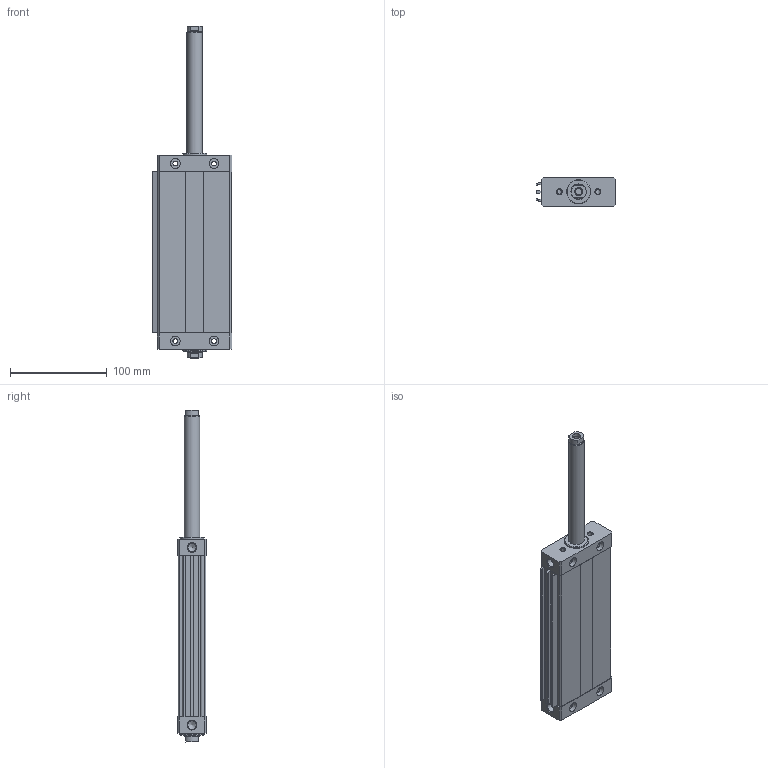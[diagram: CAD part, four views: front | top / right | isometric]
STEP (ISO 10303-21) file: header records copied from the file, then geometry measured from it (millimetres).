
FILE_DESCRIPTION((''),'2;1');
FILE_NAME('I:\Area Tecnica\Disegni\VARIE-3D\Componenti\1370 - CPO\1370_##_0000_03\1370_40_0125_03-01.iam.step','2010-12-16T10:56:51',(''),(''),'Autodesk Inventor 2011','Autodesk Inventor 2011','');
FILE_SCHEMA(('AUTOMOTIVE_DESIGN { 1 0 10303 214 1 1 1 1 }'));
Length unit declared in the file: millimetre
Products named in the file (5): 1370_40_0125_03-01; 1370_05_40_0000; 1370_06_40_0125; 1370_08_40_0000; 1370_3_40_0125
Assembly tree (4 placements, depth 2):
  1370_40_0125_03-01
    1370_05_40_0000
    1370_06_40_0125
    1370_08_40_0000
    1370_3_40_0125
Bounding box: 82.5 x 30 x 344 mm (x, y, z)
Volume: 336454.5 mm3; surface area: 116413.4 mm2
Topology: 4 solids, 4 shells, 166 faces, 398 edges, 254 vertices
Faces by surface type: plane 94, cylinder 48, cone 24
Full cylindrical faces by diameter (mm): 5 x10, 6.8 x2, 8.4 x2, 8.7 x2, 10 x8, 15.5 x2, 16 x4, 25 x2
Entity records: 4848 total; most frequent: DIRECTION 802, CARTESIAN_POINT 799, ORIENTED_EDGE 672, EDGE_CURVE 336, AXIS2_PLACEMENT_3D 299, EDGE_LOOP 254, VERTEX_POINT 244, VECTOR 204
